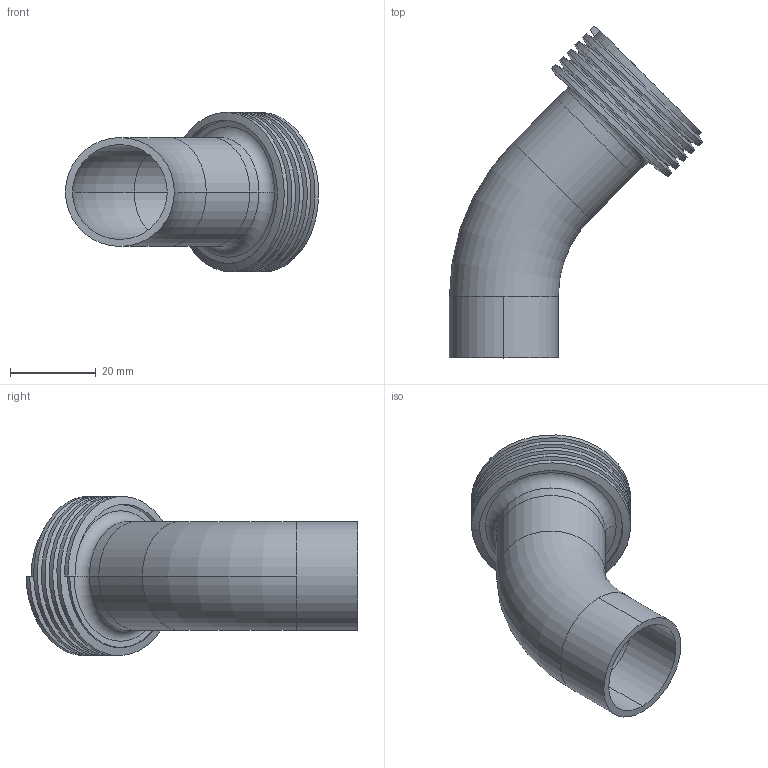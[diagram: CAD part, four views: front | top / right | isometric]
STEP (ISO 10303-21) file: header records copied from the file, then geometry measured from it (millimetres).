
FILE_DESCRIPTION (( 'STEP AP203' ), '1' );
FILE_NAME ('E2KT1.0.STEP', '2018-05-02T15:48:05', ( 'vneprd' ), ( 'Microsoft' ), 'SwSTEP 2.0', 'SolidWorks 2014', '' );
FILE_SCHEMA (( 'CONFIG_CONTROL_DESIGN' ));
Length unit declared in the file: inch
Products named in the file (3): 15TR1.0; E2KS1.0; E2KT1.0
Assembly tree (2 placements, depth 2):
  E2KT1.0
    E2KS1.0
    15TR1.0
Bounding box: 59.05 x 77.4 x 37.16 mm (x, y, z)
Volume: 15285.6 mm3; surface area: 16722.5 mm2
Topology: 3 solids, 3 shells, 34 faces, 73 edges, 46 vertices
Faces by surface type: cylinder 14, plane 8, torus 6, bspline 4, cone 2
Entity records: 2446 total; most frequent: CARTESIAN_POINT 1384, DIRECTION 179, ORIENTED_EDGE 146, AXIS2_PLACEMENT_3D 77, EDGE_CURVE 73, VERTEX_POINT 46, CIRCLE 42, EDGE_LOOP 39
